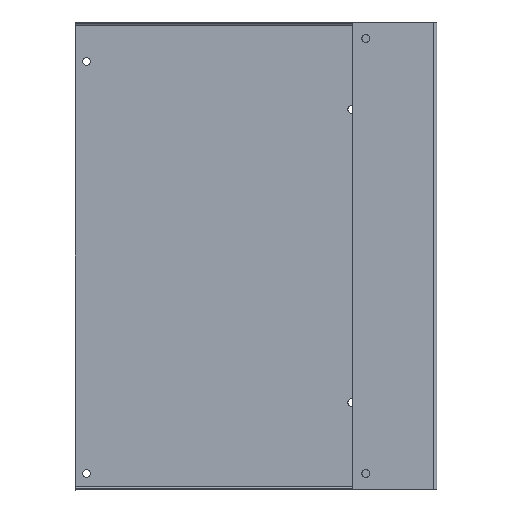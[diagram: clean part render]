
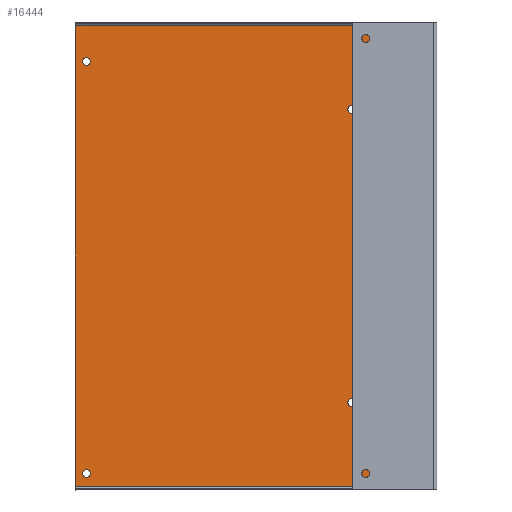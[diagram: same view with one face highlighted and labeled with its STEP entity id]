
A CAD part, front view. The second image highlights one B-rep face of the part: STEP entity #16444.
In plain terms, the highlighted planar face has unit normal (0, -1, 0).
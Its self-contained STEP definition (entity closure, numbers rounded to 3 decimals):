
#218 = EDGE_CURVE ( 'NONE', #219, #220, #4591, .T. ) ;
#219 = VERTEX_POINT ( 'NONE', #4586 ) ;
#220 = VERTEX_POINT ( 'NONE', #4585 ) ;
#501 = EDGE_CURVE ( 'NONE', #502, #503, #5425, .T. ) ;
#502 = VERTEX_POINT ( 'NONE', #5395 ) ;
#503 = VERTEX_POINT ( 'NONE', #5394 ) ;
#2657 = EDGE_CURVE ( 'NONE', #2658, #2659, #11035, .T. ) ;
#2658 = VERTEX_POINT ( 'NONE', #11036 ) ;
#2659 = VERTEX_POINT ( 'NONE', #11162 ) ;
#2707 = EDGE_CURVE ( 'NONE', #2708, #2709, #11199, .T. ) ;
#2708 = VERTEX_POINT ( 'NONE', #11194 ) ;
#2709 = VERTEX_POINT ( 'NONE', #11193 ) ;
#4585 = CARTESIAN_POINT ( 'NONE',  ( 5., -0.8, 86.7 ) ) ;
#4586 = CARTESIAN_POINT ( 'NONE',  ( 5., -0.8, 83.3 ) ) ;
#4587 = DIRECTION ( 'NONE',  ( 0., 0., 1. ) ) ;
#4588 = DIRECTION ( 'NONE',  ( 0., 1., 0. ) ) ;
#4589 = CARTESIAN_POINT ( 'NONE',  ( 5., -0.8, 85. ) ) ;
#4590 = AXIS2_PLACEMENT_3D ( 'NONE', #4589, #4588, #4587 ) ;
#4591 = CIRCLE ( 'NONE', #4590, 1.7 ) ;
#5394 = CARTESIAN_POINT ( 'NONE',  ( 5., -0.8, -93.3 ) ) ;
#5395 = CARTESIAN_POINT ( 'NONE',  ( 5., -0.8, -96.7 ) ) ;
#5396 = DIRECTION ( 'NONE',  ( 0., 0., 1. ) ) ;
#5397 = DIRECTION ( 'NONE',  ( 0., 1., 0. ) ) ;
#5419 = CARTESIAN_POINT ( 'NONE',  ( 5., -0.8, -95. ) ) ;
#5420 = AXIS2_PLACEMENT_3D ( 'NONE', #5419, #5397, #5396 ) ;
#5425 = CIRCLE ( 'NONE', #5420, 1.7 ) ;
#6551 = LINE ( 'NONE', #6709, #6708 ) ;
#6567 = CARTESIAN_POINT ( 'NONE',  ( 120.8, -0.8, 64. ) ) ;
#6594 = DIRECTION ( 'NONE',  ( 0., 0., 1. ) ) ;
#6595 = DIRECTION ( 'NONE',  ( 0., 1., 0. ) ) ;
#6596 = AXIS2_PLACEMENT_3D ( 'NONE', #6567, #6595, #6594 ) ;
#6597 = CIRCLE ( 'NONE', #6596, 1.7 ) ;
#6639 = DIRECTION ( 'NONE',  ( 0., 0., 1. ) ) ;
#6640 = DIRECTION ( 'NONE',  ( 0., 1., 0. ) ) ;
#6641 = CARTESIAN_POINT ( 'NONE',  ( 120.8, -0.8, -64. ) ) ;
#6642 = AXIS2_PLACEMENT_3D ( 'NONE', #6641, #6640, #6639 ) ;
#6643 = CIRCLE ( 'NONE', #6642, 1.7 ) ;
#6656 = CARTESIAN_POINT ( 'NONE',  ( 5., -0.8, 85. ) ) ;
#6657 = CIRCLE ( 'NONE', #6712, 1.7 ) ;
#6707 = DIRECTION ( 'NONE',  ( 0., 0., -1. ) ) ;
#6708 = VECTOR ( 'NONE', #6707, 1000. ) ;
#6709 = CARTESIAN_POINT ( 'NONE',  ( 156.4, -0.8, 100.6 ) ) ;
#6710 = DIRECTION ( 'NONE',  ( 0., 0., 1. ) ) ;
#6711 = DIRECTION ( 'NONE',  ( 0., 1., 0. ) ) ;
#6712 = AXIS2_PLACEMENT_3D ( 'NONE', #6656, #6711, #6710 ) ;
#6812 = LINE ( 'NONE', #7003, #7002 ) ;
#6845 = CARTESIAN_POINT ( 'NONE',  ( 5., -0.8, -95. ) ) ;
#6873 = DIRECTION ( 'NONE',  ( 0., 0., 1. ) ) ;
#6874 = CIRCLE ( 'NONE', #6933, 1.7 ) ;
#6933 = AXIS2_PLACEMENT_3D ( 'NONE', #6845, #6998, #6873 ) ;
#6934 = AXIS2_PLACEMENT_3D ( 'NONE', #7023, #7022, #7021 ) ;
#6935 = FACE_OUTER_BOUND ( 'NONE', #16277, .T. ) ;
#6936 = FACE_BOUND ( 'NONE', #16291, .T. ) ;
#6937 = FACE_BOUND ( 'NONE', #16229, .T. ) ;
#6938 = FACE_BOUND ( 'NONE', #16386, .T. ) ;
#6939 = FACE_BOUND ( 'NONE', #16383, .T. ) ;
#6945 = PLANE ( 'NONE',  #6934 ) ;
#6998 = DIRECTION ( 'NONE',  ( 0., 1., 0. ) ) ;
#7001 = DIRECTION ( 'NONE',  ( 0., 0., -1. ) ) ;
#7002 = VECTOR ( 'NONE', #7001, 1000. ) ;
#7003 = CARTESIAN_POINT ( 'NONE',  ( 0., -0.8, 100.6 ) ) ;
#7021 = DIRECTION ( 'NONE',  ( 0., 0., 1. ) ) ;
#7022 = DIRECTION ( 'NONE',  ( 0., 1., 0. ) ) ;
#7023 = CARTESIAN_POINT ( 'NONE',  ( 0., -0.8, 100.6 ) ) ;
#11034 = AXIS2_PLACEMENT_3D ( 'NONE', #11142, #11141, #11140 ) ;
#11035 = CIRCLE ( 'NONE', #11034, 1.7 ) ;
#11036 = CARTESIAN_POINT ( 'NONE',  ( 120.8, -0.8, 62.3 ) ) ;
#11140 = DIRECTION ( 'NONE',  ( 0., 0., 1. ) ) ;
#11141 = DIRECTION ( 'NONE',  ( 0., 1., 0. ) ) ;
#11142 = CARTESIAN_POINT ( 'NONE',  ( 120.8, -0.8, 64. ) ) ;
#11162 = CARTESIAN_POINT ( 'NONE',  ( 120.8, -0.8, 65.7 ) ) ;
#11193 = CARTESIAN_POINT ( 'NONE',  ( 120.8, -0.8, -62.3 ) ) ;
#11194 = CARTESIAN_POINT ( 'NONE',  ( 120.8, -0.8, -65.7 ) ) ;
#11195 = DIRECTION ( 'NONE',  ( 0., 0., 1. ) ) ;
#11196 = DIRECTION ( 'NONE',  ( 0., 1., 0. ) ) ;
#11197 = CARTESIAN_POINT ( 'NONE',  ( 120.8, -0.8, -64. ) ) ;
#11198 = AXIS2_PLACEMENT_3D ( 'NONE', #11197, #11196, #11195 ) ;
#11199 = CIRCLE ( 'NONE', #11198, 1.7 ) ;
#14967 = CARTESIAN_POINT ( 'NONE',  ( 0., -0.8, 100.6 ) ) ;
#14983 = CARTESIAN_POINT ( 'NONE',  ( 0., -0.8, -100.6 ) ) ;
#15090 = CARTESIAN_POINT ( 'NONE',  ( 156.4, -0.8, 100.6 ) ) ;
#15108 = VECTOR ( 'NONE', #15138, 1000. ) ;
#15109 = CARTESIAN_POINT ( 'NONE',  ( 0., -0.8, -100.6 ) ) ;
#15110 = LINE ( 'NONE', #15109, #15108 ) ;
#15132 = DIRECTION ( 'NONE',  ( 1., 0., 0. ) ) ;
#15133 = VECTOR ( 'NONE', #15132, 1000. ) ;
#15134 = CARTESIAN_POINT ( 'NONE',  ( 0., -0.8, 100.6 ) ) ;
#15135 = LINE ( 'NONE', #15134, #15133 ) ;
#15138 = DIRECTION ( 'NONE',  ( 1., 0., 0. ) ) ;
#15173 = CARTESIAN_POINT ( 'NONE',  ( 156.4, -0.8, -100.6 ) ) ;
#16136 = VERTEX_POINT ( 'NONE', #14967 ) ;
#16149 = VERTEX_POINT ( 'NONE', #14983 ) ;
#16159 = VERTEX_POINT ( 'NONE', #15173 ) ;
#16166 = EDGE_CURVE ( 'NONE', #16149, #16159, #15110, .T. ) ;
#16181 = EDGE_CURVE ( 'NONE', #16136, #16184, #15135, .T. ) ;
#16184 = VERTEX_POINT ( 'NONE', #15090 ) ;
#16229 = EDGE_LOOP ( 'NONE', ( #16230, #16295 ) ) ;
#16230 = ORIENTED_EDGE ( 'NONE', *, *, #16294, .T. ) ;
#16234 = ORIENTED_EDGE ( 'NONE', *, *, #501, .T. ) ;
#16235 = ORIENTED_EDGE ( 'NONE', *, *, #16288, .T. ) ;
#16267 = EDGE_CURVE ( 'NONE', #2709, #2708, #6643, .T. ) ;
#16271 = EDGE_CURVE ( 'NONE', #16184, #16159, #6551, .T. ) ;
#16272 = ORIENTED_EDGE ( 'NONE', *, *, #16181, .F. ) ;
#16277 = EDGE_LOOP ( 'NONE', ( #16278, #16279, #16272, #16286 ) ) ;
#16278 = ORIENTED_EDGE ( 'NONE', *, *, #16166, .T. ) ;
#16279 = ORIENTED_EDGE ( 'NONE', *, *, #16271, .F. ) ;
#16286 = ORIENTED_EDGE ( 'NONE', *, *, #16387, .T. ) ;
#16288 = EDGE_CURVE ( 'NONE', #220, #219, #6657, .T. ) ;
#16289 = ORIENTED_EDGE ( 'NONE', *, *, #218, .T. ) ;
#16291 = EDGE_LOOP ( 'NONE', ( #16292, #16293 ) ) ;
#16292 = ORIENTED_EDGE ( 'NONE', *, *, #16267, .T. ) ;
#16293 = ORIENTED_EDGE ( 'NONE', *, *, #2707, .T. ) ;
#16294 = EDGE_CURVE ( 'NONE', #2659, #2658, #6597, .T. ) ;
#16295 = ORIENTED_EDGE ( 'NONE', *, *, #2657, .T. ) ;
#16383 = EDGE_LOOP ( 'NONE', ( #16384, #16234 ) ) ;
#16384 = ORIENTED_EDGE ( 'NONE', *, *, #16385, .T. ) ;
#16385 = EDGE_CURVE ( 'NONE', #503, #502, #6874, .T. ) ;
#16386 = EDGE_LOOP ( 'NONE', ( #16235, #16289 ) ) ;
#16387 = EDGE_CURVE ( 'NONE', #16136, #16149, #6812, .T. ) ;
#16444 = ADVANCED_FACE ( 'NONE', ( #6939, #6938, #6937, #6936, #6935 ), #6945, .F. ) ;
